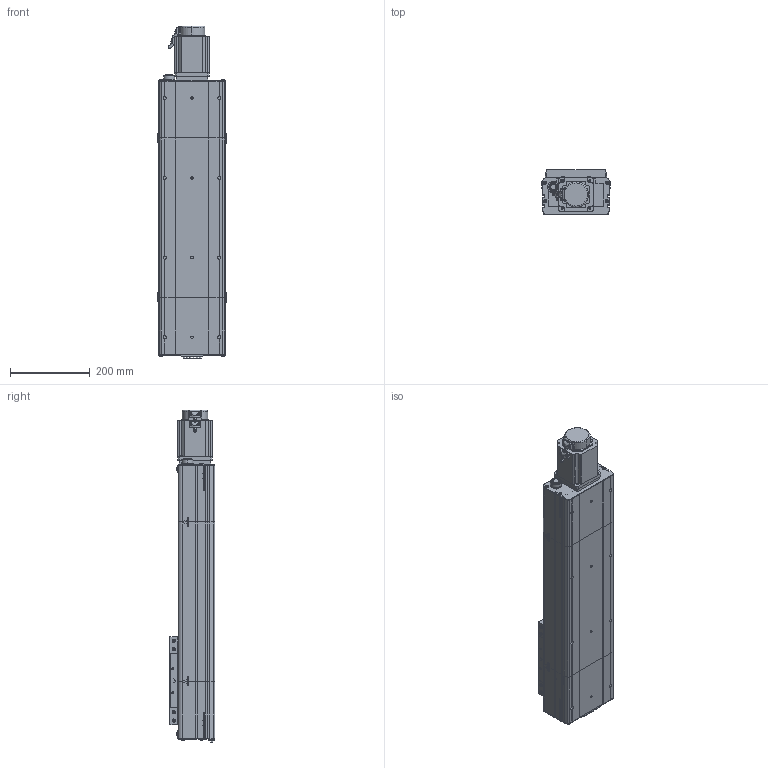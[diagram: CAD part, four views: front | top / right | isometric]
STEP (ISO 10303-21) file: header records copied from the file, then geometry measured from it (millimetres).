
FILE_DESCRIPTION (( 'STEP AP214' ), '1' );
FILE_NAME ('D17 CSH MD S400.STEP', '2010-06-29T13:57:44', ( 'Christophe Gaillard' ), ( 'SGA' ), 'SwSTEP 2.0', 'SolidWorks 2010', '' );
FILE_SCHEMA (( 'AUTOMOTIVE_DESIGN' ));
Length unit declared in the file: millimetre
Products named in the file (25): Plaque de bout D17 head_Default; Conecteur2_Default; codeur 90BLDC100-640; avant 90BLDC100A-640; chariot D17_Default; Corp D17 S400_Default; plaque de serrage D17 head_Default; corps 90BLDC100A-640; Moteur motionking 90BLDC100A-640; Corp Tail D17_Default; Conecteur_Default; couvercle D17-400_Default; Corp L400_Default; Tail D17_Default; Plaque de bout D17_Default; glissiere_Default; Chariot D17_Default; couvercle D17_Default; plaque de serrage D17_Default; support chariot D17_Default; vis M5 L15_Default; D17 CSH MD S400; Head D17 MD_Default; couvercle D17 head_Default; Corp Head D17 MD_Default
Assembly tree (44 placements, depth 4):
  D17 CSH MD S400
    Chariot D17_Default
      vis M5 L15_Default  x8
      glissiere_Default
      support chariot D17_Default
      chariot D17_Default
    Tail D17_Default
      vis M5 L15_Default  x6
      Corp Tail D17_Default
      couvercle D17_Default
      Plaque de bout D17_Default
      plaque de serrage D17_Default
    Head D17 MD_Default
      plaque de serrage D17 head_Default
      vis M5 L15_Default  x7
      couvercle D17 head_Default
      Corp Head D17 MD_Default
      Plaque de bout D17 head_Default
      Moteur motionking 90BLDC100A-640
        corps 90BLDC100A-640
        Conecteur2_Default
        Conecteur_Default
        codeur 90BLDC100-640
        avant 90BLDC100A-640
    Corp D17 S400_Default
      Corp L400_Default
      couvercle D17-400_Default
Bounding box: 172 x 114 x 833 mm (x, y, z)
Volume: 5657923.9 mm3; surface area: 1037700.4 mm2
Topology: 81 solids, 81 shells, 2946 faces, 7466 edges, 4896 vertices
Faces by surface type: plane 1787, bspline 710, cylinder 354, torus 53, cone 42
Entity records: 142741 total; most frequent: CARTESIAN_POINT 78178, ORIENTED_EDGE 12928, DIRECTION 9156, EDGE_CURVE 6464, VECTOR 4432, LINE 4432, VERTEX_POINT 4296, EDGE_LOOP 2724
